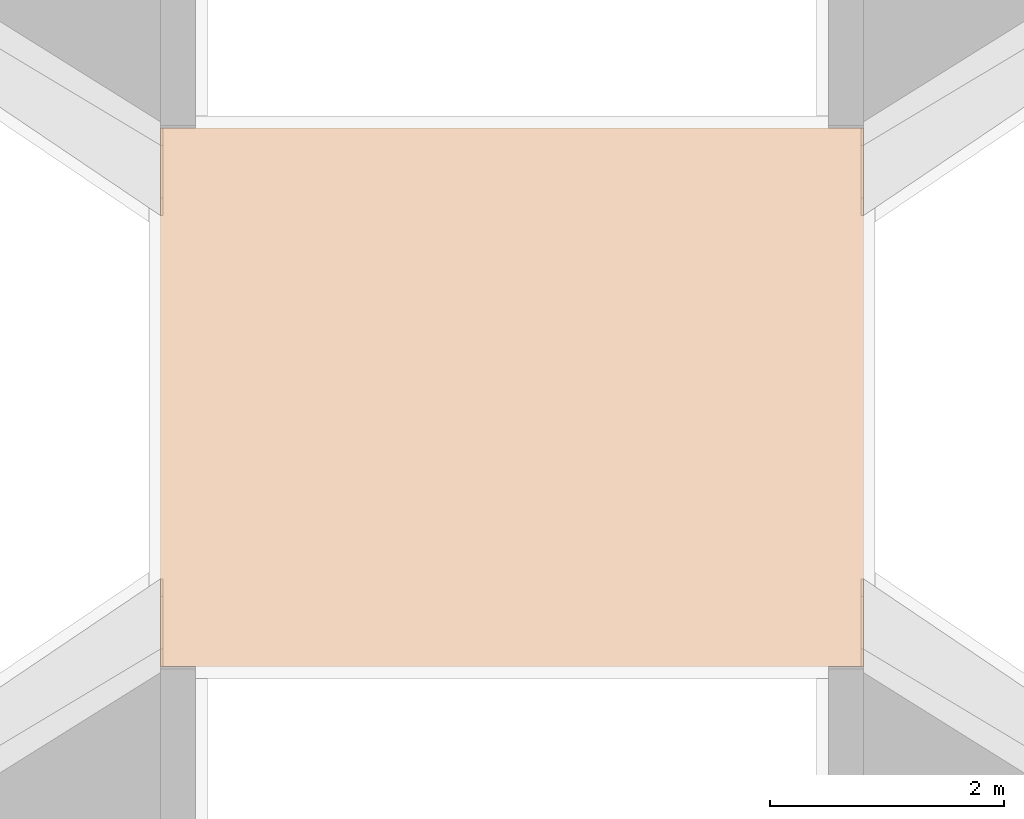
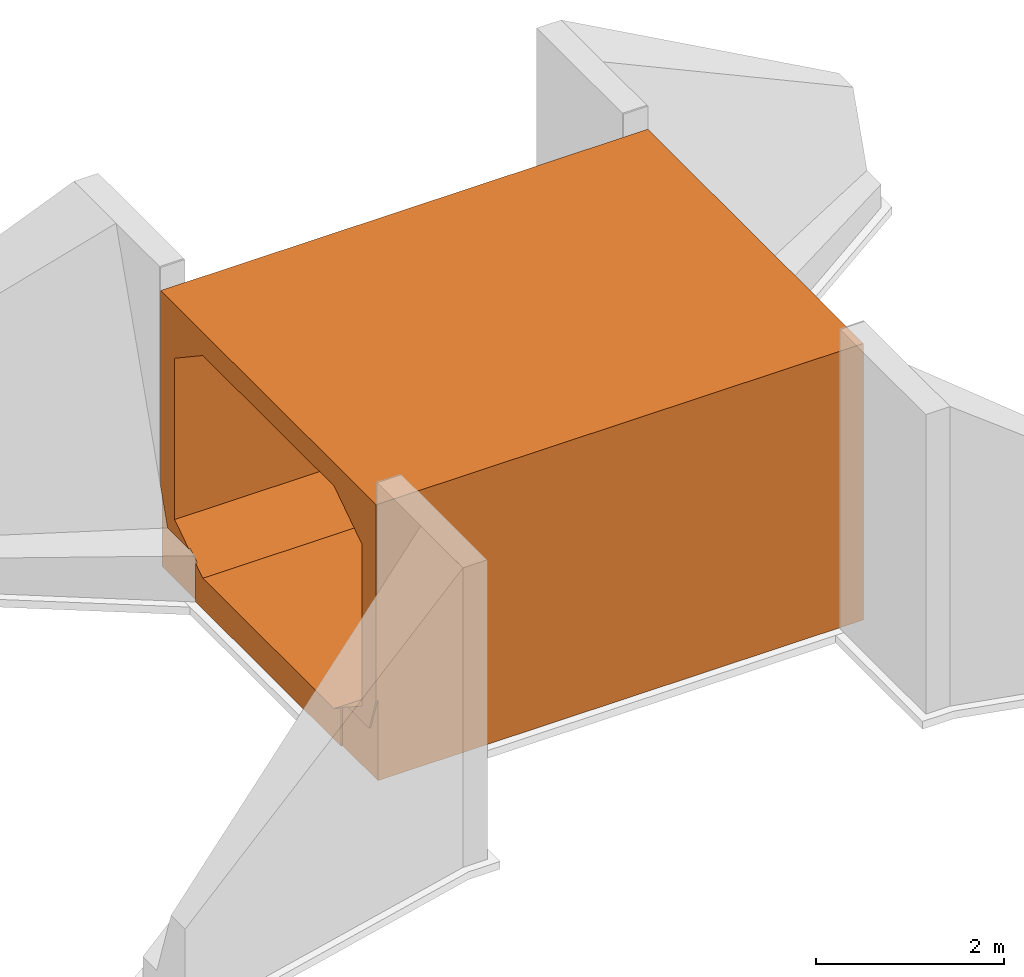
# One storey, part 2 of 2: 1 proxy.
"""IFC2X3 building model written with IfcOpenShell, lengths in metres."""

from ifc_helpers import new_model, entity, si_unit, converted_unit, derived_unit, direction, frame, origin, place, context, subcontext, project, spatial, faceted_brep, source, transform, mapped, material, type_object, type_shapes, element, save


model = new_model("IFC2X3")

# Units and contexts
model_context = context("Model", 3, precision=1e-05, world=origin(), true_north=direction((6.12303176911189e-17, 1.0)))
body_context = subcontext(model_context, "Body", "Model", "MODEL_VIEW")
ifc_project = project(units=[si_unit("LENGTHUNIT", "METRE"), si_unit("AREAUNIT", "SQUARE_METRE"), si_unit("VOLUMEUNIT", "CUBIC_METRE"), converted_unit("PLANEANGLEUNIT", "DEGREE", entity("IfcRatioMeasure", 0.0174532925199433), si_unit("PLANEANGLEUNIT", "RADIAN"), dimensions=[0, 0, 0, 0, 0, 0, 0]), si_unit("MASSUNIT", "GRAM", prefix="KILO"), derived_unit("MASSDENSITYUNIT", [(si_unit("MASSUNIT", "GRAM", prefix="KILO"), 1), (si_unit("LENGTHUNIT", "METRE"), -3)]), si_unit("TIMEUNIT", "SECOND"), si_unit("FREQUENCYUNIT", "HERTZ"), si_unit("THERMODYNAMICTEMPERATUREUNIT", "DEGREE_CELSIUS"), derived_unit("THERMALTRANSMITTANCEUNIT", [(si_unit("MASSUNIT", "GRAM", prefix="KILO"), 1), (si_unit("THERMODYNAMICTEMPERATUREUNIT", "KELVIN"), -1), (si_unit("TIMEUNIT", "SECOND"), -3)]), derived_unit("VOLUMETRICFLOWRATEUNIT", [(si_unit("LENGTHUNIT", "METRE"), 3), (si_unit("TIMEUNIT", "SECOND"), -1)]), si_unit("ELECTRICCURRENTUNIT", "AMPERE"), si_unit("ELECTRICVOLTAGEUNIT", "VOLT"), si_unit("POWERUNIT", "WATT"), si_unit("FORCEUNIT", "NEWTON", prefix="KILO"), si_unit("ILLUMINANCEUNIT", "LUX"), si_unit("LUMINOUSFLUXUNIT", "LUMEN"), si_unit("LUMINOUSINTENSITYUNIT", "CANDELA"), derived_unit("USERDEFINED", [(si_unit("MASSUNIT", "GRAM", prefix="KILO"), -1), (si_unit("LENGTHUNIT", "METRE"), -2), (si_unit("TIMEUNIT", "SECOND"), 3), (si_unit("LUMINOUSFLUXUNIT", "LUMEN"), 1)]), derived_unit("LINEARVELOCITYUNIT", [(si_unit("LENGTHUNIT", "METRE"), 1), (si_unit("TIMEUNIT", "SECOND"), -1)]), si_unit("PRESSUREUNIT", "PASCAL"), derived_unit("USERDEFINED", [(si_unit("LENGTHUNIT", "METRE"), -2), (si_unit("MASSUNIT", "GRAM", prefix="KILO"), 1), (si_unit("TIMEUNIT", "SECOND"), -2)])], contexts=[model_context])

# Site, building, storey
site_placement = place(None, origin())
site = spatial("IfcSite", under=ifc_project, at=site_placement, Name="Default", CompositionType="ELEMENT")
building_placement = place(site_placement, origin())
building = spatial("IfcBuilding", under=site, at=building_placement, CompositionType="ELEMENT")
storey_placement = place(building_placement, origin())
storey = spatial("IfcBuildingStorey", under=building, at=storey_placement, Name="Fondation Arase inférieur", CompositionType="ELEMENT", Elevation=0.0)

# Proxy
ifc_material = material(Name="Béton, C35/45 G+S")
building_element_proxy_type = type_object("IfcBuildingElementProxyType", Name="Cadre", PredefinedType="NOTDEFINED", material=ifc_material)
shared_shape = source(origin(), body_context, "Body", "Brep", [
    faceted_brep([(6.0, 4.6, 3.6), (6.0, 0.0, 3.6), (6.0, 0.0, 0.0), (6.0, 3.84999999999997, 0.0), (6.0, 3.84999999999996, 0.499999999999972), (6.0, 3.7, 0.4), (6.0, 0.899999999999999, 0.4), (6.0, 0.300000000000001, 0.8), (6.0, 0.300000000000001, 2.9), (6.0, 0.899999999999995, 3.3), (6.0, 3.7, 3.3), (6.0, 4.3, 2.9), (6.0, 4.3, 0.8), (6.0, 4.0, 0.600000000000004), (6.0, 4.44999999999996, 0.600000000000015), (6.0, 4.6, 1.05000000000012), (0.0, 0.900000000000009, 0.4), (0.0, 3.70000000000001, 0.4), (0.0, 3.85, 0.499999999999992), (0.0, 3.85, 0.0), (0.0, 0.750000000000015, 0.0), (0.0, 0.750000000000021, 0.499999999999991), (0.300000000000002, 0.0, 0.0), (0.0200000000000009, 0.0, 0.0), (0.020000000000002, 0.750000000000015, 0.0), (0.0200000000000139, 3.85, 0.0), (0.0200000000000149, 4.60000000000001, 0.0), (0.300000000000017, 4.60000000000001, 0.0), (5.70000000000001, 4.6, 0.0), (5.98000000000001, 4.6, 0.0), (5.98000000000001, 3.84999999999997, 0.0), (5.98000000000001, 4.6, 1.05000000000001), (0.0200000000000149, 4.60000000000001, 1.05000000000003), (0.0, 4.60000000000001, 1.05000000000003), (0.0, 4.60000000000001, 3.6), (0.300000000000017, 4.60000000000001, 3.6), (5.70000000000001, 4.6, 3.6), (0.0, 0.0, 3.6), (0.300000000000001, 0.0, 3.6), (0.0, 0.0, 1.05000000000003), (0.0200000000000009, 0.0, 1.05000000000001), (0.020000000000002, 0.750000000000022, 0.499999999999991), (0.020000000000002, 0.600000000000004, 0.600000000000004), (0.0, 0.600000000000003, 0.600000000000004), (0.0, 0.300000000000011, 0.8), (0.0, 0.300000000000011, 2.9), (0.0, 0.900000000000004, 3.3), (0.0, 3.70000000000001, 3.3), (0.0, 4.30000000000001, 2.9), (0.0, 4.30000000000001, 0.8), (0.0, 4.0, 0.600000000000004), (0.0200000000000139, 4.0, 0.600000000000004), (0.0200000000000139, 3.85, 0.499999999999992), (5.98000000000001, 3.84999999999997, 0.499999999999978), (5.98000000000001, 4.0, 0.600000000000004), (0.020000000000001, 0.150000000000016, 0.600000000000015), (0.0, 0.150000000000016, 0.600000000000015), (5.98000000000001, 4.44999999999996, 0.600000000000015), (0.0200000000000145, 4.45, 0.600000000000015), (0.0, 4.45, 0.600000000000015)], [[[0, 1, 2, 3, 4, 5, 6, 7, 8, 9, 10, 11, 12, 13, 14, 15]], [[16, 17, 18, 19, 20, 21]], [[2, 22, 23, 24, 20, 19, 25, 26, 27, 28, 29, 30, 3]], [[0, 15, 31, 29, 28, 27, 26, 32, 33, 34, 35, 36]], [[1, 0, 36, 35, 34, 37, 38]], [[2, 1, 38, 37, 39, 40, 23, 22]], [[7, 6, 16, 21, 41, 42, 43, 44]], [[8, 7, 44, 45]], [[9, 8, 45, 46]], [[10, 9, 46, 47]], [[11, 10, 47, 48]], [[12, 11, 48, 49]], [[12, 49, 50, 51, 52, 18, 17, 5, 4, 53, 54, 13]], [[6, 5, 17, 16]], [[55, 42, 41, 24, 23, 40]], [[24, 41, 21, 20]], [[55, 40, 39, 56]], [[42, 55, 56, 43]], [[57, 54, 53, 30, 29, 31]], [[30, 53, 4, 3]], [[57, 31, 15, 14]], [[54, 57, 14, 13]], [[25, 52, 51, 58, 32, 26]], [[52, 25, 19, 18]], [[32, 58, 59, 33]], [[58, 51, 50, 59]], [[37, 34, 33, 59, 50, 49, 48, 47, 46, 45, 44, 43, 56, 39]]]),
])
type_shapes(building_element_proxy_type, [shared_shape])
proxy_placement = place(storey_placement, frame((0.708814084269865, -2.57360173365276, 0.0)))
element("IfcBuildingElementProxy", 1, at=proxy_placement, inside=storey, type_object=building_element_proxy_type, material=ifc_material, Name="Cadre:Cadre", ObjectType="Cadre:Cadre", context=body_context, shape_type="MappedRepresentation", body=[
    mapped(shared_shape, transform((0.0, 0.0, 0.0), scale=1.0)),
])

save(model, "model.ifc")
